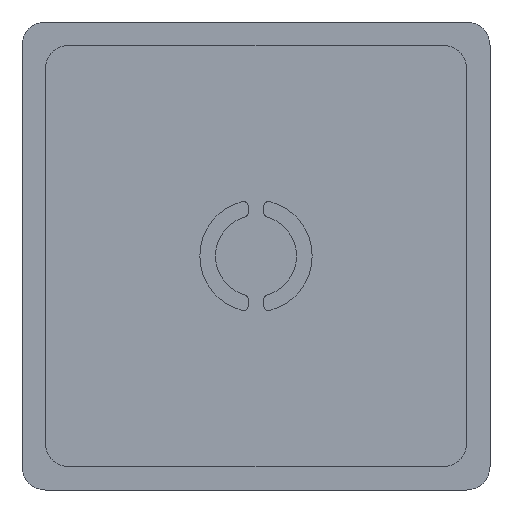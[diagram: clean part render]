
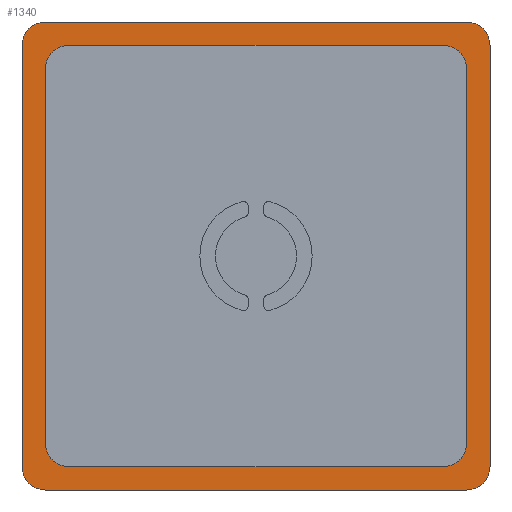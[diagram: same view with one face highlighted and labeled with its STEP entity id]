
A CAD part, front view. The second image highlights one B-rep face of the part: STEP entity #1340.
In plain terms, the highlighted planar face has unit normal (0, -1, 0).
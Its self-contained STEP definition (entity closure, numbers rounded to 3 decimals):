
#2 = LINE ( 'NONE', #1132, #1450 ) ;
#3 = DIRECTION ( 'NONE',  ( 0., -1., 0. ) ) ;
#35 = AXIS2_PLACEMENT_3D ( 'NONE', #133, #927, #253 ) ;
#39 = ORIENTED_EDGE ( 'NONE', *, *, #310, .F. ) ;
#48 = DIRECTION ( 'NONE',  ( 0., 0., -1. ) ) ;
#54 = ORIENTED_EDGE ( 'NONE', *, *, #727, .F. ) ;
#64 = AXIS2_PLACEMENT_3D ( 'NONE', #856, #180, #971 ) ;
#76 = CARTESIAN_POINT ( 'NONE',  ( -2.618, 0., -4.551 ) ) ;
#85 = CIRCLE ( 'NONE', #35, 1.5 ) ;
#92 = AXIS2_PLACEMENT_3D ( 'NONE', #956, #280, #1074 ) ;
#97 = ORIENTED_EDGE ( 'NONE', *, *, #1205, .F. ) ;
#111 = EDGE_LOOP ( 'NONE', ( #325, #862, #1250, #54, #172, #1129, #894, #836 ) ) ;
#118 = CARTESIAN_POINT ( 'NONE',  ( -29.618, 0., -4.551 ) ) ;
#119 = CARTESIAN_POINT ( 'NONE',  ( -4.118, 0., -6.051 ) ) ;
#121 = CARTESIAN_POINT ( 'NONE',  ( -31.118, 0., -4.551 ) ) ;
#125 = DIRECTION ( 'NONE',  ( 0., 0., 1. ) ) ;
#133 = CARTESIAN_POINT ( 'NONE',  ( -29.618, 0., -30.051 ) ) ;
#134 = AXIS2_PLACEMENT_3D ( 'NONE', #121, #3, #357 ) ;
#158 = CARTESIAN_POINT ( 'NONE',  ( -2.618, 0., -31.551 ) ) ;
#161 = VECTOR ( 'NONE', #243, 1000. ) ;
#162 = CARTESIAN_POINT ( 'NONE',  ( -32.618, 0., -31.551 ) ) ;
#163 = EDGE_CURVE ( 'NONE', #1342, #489, #874, .T. ) ;
#164 = LINE ( 'NONE', #736, #734 ) ;
#172 = ORIENTED_EDGE ( 'NONE', *, *, #1186, .F. ) ;
#180 = DIRECTION ( 'NONE',  ( 0., 1., 0. ) ) ;
#191 = VERTEX_POINT ( 'NONE', #248 ) ;
#205 = ORIENTED_EDGE ( 'NONE', *, *, #644, .F. ) ;
#212 = VERTEX_POINT ( 'NONE', #1164 ) ;
#213 = DIRECTION ( 'NONE',  ( 0., 1., 0. ) ) ;
#243 = DIRECTION ( 'NONE',  ( 1., 0., 0. ) ) ;
#248 = CARTESIAN_POINT ( 'NONE',  ( -31.118, 0., -3.051 ) ) ;
#253 = DIRECTION ( 'NONE',  ( 0., 0., 1. ) ) ;
#264 = ORIENTED_EDGE ( 'NONE', *, *, #554, .F. ) ;
#267 = DIRECTION ( 'NONE',  ( 0., 1., 0. ) ) ;
#270 = EDGE_CURVE ( 'NONE', #754, #452, #1477, .T. ) ;
#280 = DIRECTION ( 'NONE',  ( 0., 1., 0. ) ) ;
#284 = DIRECTION ( 'NONE',  ( -1., 0., 0. ) ) ;
#293 = CARTESIAN_POINT ( 'NONE',  ( -4.118, 0., -33.051 ) ) ;
#298 = VERTEX_POINT ( 'NONE', #498 ) ;
#306 = LINE ( 'NONE', #320, #1476 ) ;
#310 = EDGE_CURVE ( 'NONE', #191, #957, #838, .T. ) ;
#318 = EDGE_CURVE ( 'NONE', #1202, #1342, #803, .T. ) ;
#320 = CARTESIAN_POINT ( 'NONE',  ( -29.618, 0., -4.551 ) ) ;
#322 = AXIS2_PLACEMENT_3D ( 'NONE', #553, #1343, #667 ) ;
#325 = ORIENTED_EDGE ( 'NONE', *, *, #832, .F. ) ;
#339 = EDGE_CURVE ( 'NONE', #580, #191, #1369, .T. ) ;
#357 = DIRECTION ( 'NONE',  ( 0., 0., -1. ) ) ;
#372 = EDGE_CURVE ( 'NONE', #686, #521, #872, .T. ) ;
#377 = CARTESIAN_POINT ( 'NONE',  ( -31.118, 0., -6.051 ) ) ;
#378 = DIRECTION ( 'NONE',  ( 0., -1., 0. ) ) ;
#382 = CARTESIAN_POINT ( 'NONE',  ( -4.118, 0., -6.051 ) ) ;
#386 = CIRCLE ( 'NONE', #396, 1.5 ) ;
#388 = CARTESIAN_POINT ( 'NONE',  ( -5.618, 0., -30.051 ) ) ;
#393 = EDGE_CURVE ( 'NONE', #1049, #298, #164, .T. ) ;
#396 = AXIS2_PLACEMENT_3D ( 'NONE', #891, #213, #1005 ) ;
#416 = VECTOR ( 'NONE', #1099, 1000. ) ;
#419 = ORIENTED_EDGE ( 'NONE', *, *, #426, .F. ) ;
#426 = EDGE_CURVE ( 'NONE', #521, #1049, #1035, .T. ) ;
#431 = LINE ( 'NONE', #1037, #161 ) ;
#452 = VERTEX_POINT ( 'NONE', #377 ) ;
#466 = VECTOR ( 'NONE', #48, 1000. ) ;
#480 = AXIS2_PLACEMENT_3D ( 'NONE', #938, #267, #1057 ) ;
#489 = VERTEX_POINT ( 'NONE', #382 ) ;
#498 = CARTESIAN_POINT ( 'NONE',  ( -31.118, 0., -33.051 ) ) ;
#506 = DIRECTION ( 'NONE',  ( 0., 0., -1. ) ) ;
#521 = VERTEX_POINT ( 'NONE', #842 ) ;
#525 = VERTEX_POINT ( 'NONE', #162 ) ;
#553 = CARTESIAN_POINT ( 'NONE',  ( -5.618, 0., -6.051 ) ) ;
#554 = EDGE_CURVE ( 'NONE', #957, #686, #821, .T. ) ;
#580 = VERTEX_POINT ( 'NONE', #1420 ) ;
#583 = FACE_BOUND ( 'NONE', #111, .T. ) ;
#613 = DIRECTION ( 'NONE',  ( 1., 0., 0. ) ) ;
#644 = EDGE_CURVE ( 'NONE', #525, #580, #716, .T. ) ;
#656 = ORIENTED_EDGE ( 'NONE', *, *, #393, .F. ) ;
#663 = DIRECTION ( 'NONE',  ( -1., 0., 0. ) ) ;
#667 = DIRECTION ( 'NONE',  ( 0., 0., -1. ) ) ;
#684 = VERTEX_POINT ( 'NONE', #878 ) ;
#686 = VERTEX_POINT ( 'NONE', #76 ) ;
#716 = LINE ( 'NONE', #1310, #416 ) ;
#725 = CARTESIAN_POINT ( 'NONE',  ( -4.118, 0., -3.051 ) ) ;
#727 = EDGE_CURVE ( 'NONE', #212, #754, #306, .T. ) ;
#734 = VECTOR ( 'NONE', #284, 1000. ) ;
#736 = CARTESIAN_POINT ( 'NONE',  ( -31.118, 0., -33.051 ) ) ;
#754 = VERTEX_POINT ( 'NONE', #118 ) ;
#772 = EDGE_CURVE ( 'NONE', #1016, #1202, #431, .T. ) ;
#803 = CIRCLE ( 'NONE', #1265, 1.5 ) ;
#821 = CIRCLE ( 'NONE', #64, 1.5 ) ;
#832 = EDGE_CURVE ( 'NONE', #684, #1016, #85, .T. ) ;
#836 = ORIENTED_EDGE ( 'NONE', *, *, #772, .F. ) ;
#838 = LINE ( 'NONE', #1290, #905 ) ;
#842 = CARTESIAN_POINT ( 'NONE',  ( -2.618, 0., -31.551 ) ) ;
#844 = FACE_OUTER_BOUND ( 'NONE', #897, .T. ) ;
#856 = CARTESIAN_POINT ( 'NONE',  ( -4.118, 0., -4.551 ) ) ;
#862 = ORIENTED_EDGE ( 'NONE', *, *, #1284, .F. ) ;
#872 = LINE ( 'NONE', #158, #466 ) ;
#874 = LINE ( 'NONE', #119, #1444 ) ;
#878 = CARTESIAN_POINT ( 'NONE',  ( -31.118, 0., -30.051 ) ) ;
#891 = CARTESIAN_POINT ( 'NONE',  ( -31.118, 0., -31.551 ) ) ;
#892 = ORIENTED_EDGE ( 'NONE', *, *, #372, .F. ) ;
#894 = ORIENTED_EDGE ( 'NONE', *, *, #318, .F. ) ;
#897 = EDGE_LOOP ( 'NONE', ( #1341, #205, #97, #656, #419, #892, #264, #39 ) ) ;
#905 = VECTOR ( 'NONE', #613, 1000. ) ;
#914 = CARTESIAN_POINT ( 'NONE',  ( -4.118, 0., -30.051 ) ) ;
#927 = DIRECTION ( 'NONE',  ( 0., -1., 0. ) ) ;
#938 = CARTESIAN_POINT ( 'NONE',  ( -4.118, 0., -31.551 ) ) ;
#956 = CARTESIAN_POINT ( 'NONE',  ( -31.118, 0., -4.551 ) ) ;
#957 = VERTEX_POINT ( 'NONE', #725 ) ;
#971 = DIRECTION ( 'NONE',  ( 0., 0., 1. ) ) ;
#1005 = DIRECTION ( 'NONE',  ( 0., 0., -1. ) ) ;
#1016 = VERTEX_POINT ( 'NONE', #1081 ) ;
#1035 = CIRCLE ( 'NONE', #480, 1.5 ) ;
#1036 = PLANE ( 'NONE',  #134 ) ;
#1037 = CARTESIAN_POINT ( 'NONE',  ( -29.618, 0., -31.551 ) ) ;
#1049 = VERTEX_POINT ( 'NONE', #293 ) ;
#1057 = DIRECTION ( 'NONE',  ( 0., 0., -1. ) ) ;
#1058 = CARTESIAN_POINT ( 'NONE',  ( -29.618, 0., -6.051 ) ) ;
#1074 = DIRECTION ( 'NONE',  ( 0., 0., -1. ) ) ;
#1081 = CARTESIAN_POINT ( 'NONE',  ( -29.618, 0., -31.551 ) ) ;
#1099 = DIRECTION ( 'NONE',  ( 0., 0., 1. ) ) ;
#1116 = AXIS2_PLACEMENT_3D ( 'NONE', #1058, #378, #1176 ) ;
#1129 = ORIENTED_EDGE ( 'NONE', *, *, #163, .F. ) ;
#1132 = CARTESIAN_POINT ( 'NONE',  ( -31.118, 0., -6.051 ) ) ;
#1164 = CARTESIAN_POINT ( 'NONE',  ( -5.618, 0., -4.551 ) ) ;
#1176 = DIRECTION ( 'NONE',  ( 0., 0., 1. ) ) ;
#1185 = DIRECTION ( 'NONE',  ( 0., -1., 0. ) ) ;
#1186 = EDGE_CURVE ( 'NONE', #489, #212, #1291, .T. ) ;
#1202 = VERTEX_POINT ( 'NONE', #1230 ) ;
#1205 = EDGE_CURVE ( 'NONE', #298, #525, #386, .T. ) ;
#1230 = CARTESIAN_POINT ( 'NONE',  ( -5.618, 0., -31.551 ) ) ;
#1250 = ORIENTED_EDGE ( 'NONE', *, *, #270, .F. ) ;
#1265 = AXIS2_PLACEMENT_3D ( 'NONE', #388, #1185, #506 ) ;
#1284 = EDGE_CURVE ( 'NONE', #452, #684, #2, .T. ) ;
#1290 = CARTESIAN_POINT ( 'NONE',  ( -31.118, 0., -3.051 ) ) ;
#1291 = CIRCLE ( 'NONE', #322, 1.5 ) ;
#1310 = CARTESIAN_POINT ( 'NONE',  ( -32.618, 0., -31.551 ) ) ;
#1340 = ADVANCED_FACE ( 'NONE', ( #583, #844 ), #1036, .T. ) ;
#1341 = ORIENTED_EDGE ( 'NONE', *, *, #339, .F. ) ;
#1342 = VERTEX_POINT ( 'NONE', #914 ) ;
#1343 = DIRECTION ( 'NONE',  ( 0., -1., 0. ) ) ;
#1358 = DIRECTION ( 'NONE',  ( 0., 0., -1. ) ) ;
#1369 = CIRCLE ( 'NONE', #92, 1.5 ) ;
#1420 = CARTESIAN_POINT ( 'NONE',  ( -32.618, 0., -4.551 ) ) ;
#1444 = VECTOR ( 'NONE', #125, 1000. ) ;
#1450 = VECTOR ( 'NONE', #1358, 1000. ) ;
#1476 = VECTOR ( 'NONE', #663, 1000. ) ;
#1477 = CIRCLE ( 'NONE', #1116, 1.5 ) ;
